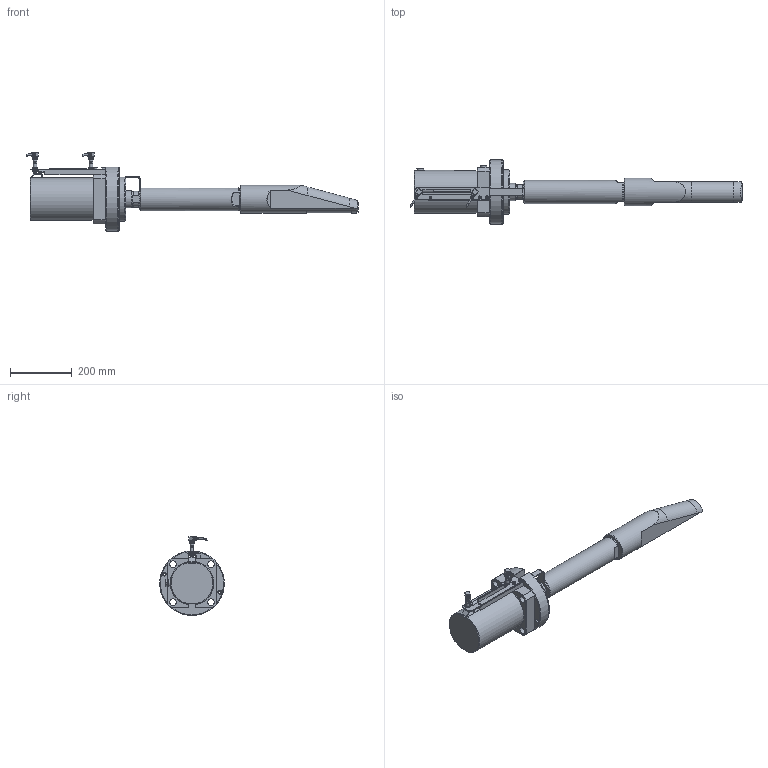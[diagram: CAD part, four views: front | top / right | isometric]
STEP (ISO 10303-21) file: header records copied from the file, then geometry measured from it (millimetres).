
FILE_DESCRIPTION(/* description */ (''),/* implementation_level */ '2;1');
FILE_NAME(/* name */ 'P:\Standard products\1. QMC Clamping Systems\6. HECS - Integrated Wedge Clamp\HECS-135\HECS135-3250 (26-03-22).stp',/* time_stamp */ '2022-03-26T11:14:32+01:00',/* author */ ('breep'),/* organization */ (''),/* preprocessor_version */ 'ST-DEVELOPER v17.2',/* originating_system */ 'Autodesk Inventor 2019',/* authorisation */ '');
FILE_SCHEMA (('AUTOMOTIVE_DESIGN { 1 0 10303 214 3 1 1 }'));
Length unit declared in the file: millimetre
Products named in the file (1): Part2
Bounding box: 1078.44 x 209.49 x 256.07 mm (x, y, z)
Volume: 8488148.5 mm3; surface area: 665484 mm2
Topology: 1 solids, 1 shells, 723 faces, 1990 edges, 1316 vertices
Faces by surface type: plane 281, cylinder 232, torus 81, cone 74, bspline 35, sphere 20
Full cylindrical faces by diameter (mm): 2.179 x8, 4 x2, 4.917 x2, 6 x3, 7 x5, 8.376 x2, 10 x2, 11 x2, 11.6 x2, 12 x8, 12.2 x1, 14 x2, 14.95 x1, 21.5 x4, 29 x1, 55.37 x1, 55.97 x1, 56.5 x4, 58.794 x1, 61 x1, 62.795 x1, 71.1 x2, 74.5 x1, 75 x1, 85 x1, 89.5 x3, 89.9 x1, 90.087 x1, 91 x1, 114.964 x1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
Entity records: 26863 total; most frequent: CARTESIAN_POINT 7432, DIRECTION 4011, ORIENTED_EDGE 3930, EDGE_CURVE 1965, AXIS2_PLACEMENT_3D 1618, VERTEX_POINT 1316, CIRCLE 918, EDGE_LOOP 821
